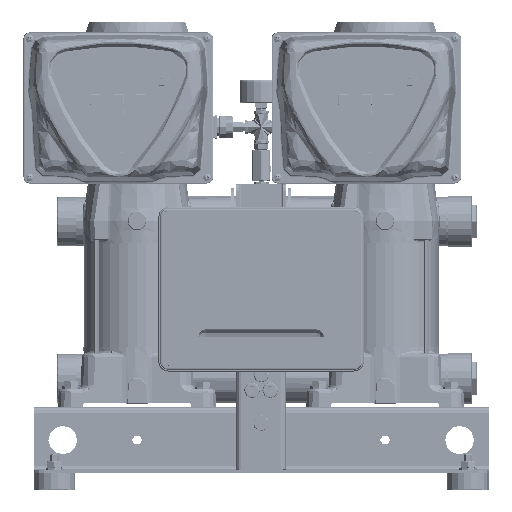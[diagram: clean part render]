
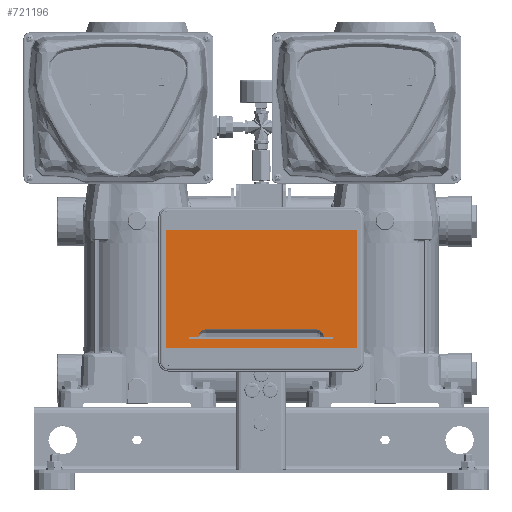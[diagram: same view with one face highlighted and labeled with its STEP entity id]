
A CAD part, top view. The second image highlights one B-rep face of the part: STEP entity #721196.
In plain terms, the highlighted planar face has unit normal (0, 0, 1).
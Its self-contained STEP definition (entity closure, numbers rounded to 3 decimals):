
#717803=DIRECTION('',(1.,0.,0.));
#717804=VECTOR('',#717803,231.);
#717805=CARTESIAN_POINT('',(-115.5,-71.5,112.5));
#717806=LINE('',#717805,#717804);
#717810=DIRECTION('',(0.,-1.,0.));
#717811=VECTOR('',#717810,143.);
#717812=CARTESIAN_POINT('',(-115.5,71.5,112.5));
#717813=LINE('',#717812,#717811);
#717817=DIRECTION('',(-1.,0.,0.));
#717818=VECTOR('',#717817,231.);
#717819=CARTESIAN_POINT('',(115.5,71.5,112.5));
#717820=LINE('',#717819,#717818);
#717824=DIRECTION('',(0.,1.,0.));
#717825=VECTOR('',#717824,143.);
#717826=CARTESIAN_POINT('',(115.5,-71.5,112.5));
#717827=LINE('',#717826,#717825);
#717831=DIRECTION('',(-1.,0.,0.));
#717832=VECTOR('',#717831,10.);
#717833=CARTESIAN_POINT('',(-75.85,-57.2,112.5));
#717834=LINE('',#717833,#717832);
#717838=CARTESIAN_POINT('',(-85.85,-58.85,112.5));
#717839=DIRECTION('',(0.,0.,1.));
#717840=DIRECTION('',(0.,1.,0.));
#717841=AXIS2_PLACEMENT_3D('',#717838,#717839,#717840);
#717846=DIRECTION('',(1.,0.,0.));
#717847=VECTOR('',#717846,171.7);
#717848=CARTESIAN_POINT('',(-85.85,-60.5,112.5));
#717849=LINE('',#717848,#717847);
#717853=CARTESIAN_POINT('',(85.85,-58.85,112.5));
#717854=DIRECTION('',(0.,0.,1.));
#717855=DIRECTION('',(0.,-1.,0.));
#717856=AXIS2_PLACEMENT_3D('',#717853,#717854,#717855);
#717861=DIRECTION('',(-1.,0.,0.));
#717862=VECTOR('',#717861,10.);
#717863=CARTESIAN_POINT('',(85.85,-57.2,112.5));
#717864=LINE('',#717863,#717862);
#717868=CARTESIAN_POINT('',(67.15,-57.2,112.5));
#717869=DIRECTION('',(0.,0.,-1.));
#717870=DIRECTION('',(0.,1.,0.));
#717871=AXIS2_PLACEMENT_3D('',#717868,#717869,#717870);
#717876=DIRECTION('',(1.,0.,0.));
#717877=VECTOR('',#717876,134.3);
#717878=CARTESIAN_POINT('',(-67.15,-48.5,112.5));
#717879=LINE('',#717878,#717877);
#717883=CARTESIAN_POINT('',(-67.15,-57.2,112.5));
#717884=DIRECTION('',(0.,0.,-1.));
#717885=DIRECTION('',(-1.,0.,0.));
#717886=AXIS2_PLACEMENT_3D('',#717883,#717884,#717885);
#718584=CARTESIAN_POINT('',(-115.5,-71.5,112.5));
#718585=CARTESIAN_POINT('',(115.5,-71.5,112.5));
#718586=VERTEX_POINT('',#718584);
#718587=VERTEX_POINT('',#718585);
#718588=CARTESIAN_POINT('',(115.5,71.5,112.5));
#718589=VERTEX_POINT('',#718588);
#718590=CARTESIAN_POINT('',(-115.5,71.5,112.5));
#718591=VERTEX_POINT('',#718590);
#718616=CARTESIAN_POINT('',(-85.85,-60.5,112.5));
#718617=CARTESIAN_POINT('',(85.85,-60.5,112.5));
#718618=VERTEX_POINT('',#718616);
#718619=VERTEX_POINT('',#718617);
#718620=CARTESIAN_POINT('',(85.85,-57.2,112.5));
#718621=VERTEX_POINT('',#718620);
#718622=CARTESIAN_POINT('',(-85.85,-57.2,112.5));
#718623=VERTEX_POINT('',#718622);
#718640=CARTESIAN_POINT('',(-75.85,-57.2,112.5));
#718641=CARTESIAN_POINT('',(-67.15,-48.5,112.5));
#718642=VERTEX_POINT('',#718640);
#718643=VERTEX_POINT('',#718641);
#718644=CARTESIAN_POINT('',(67.15,-48.5,112.5));
#718645=VERTEX_POINT('',#718644);
#718646=CARTESIAN_POINT('',(75.85,-57.2,112.5));
#718647=VERTEX_POINT('',#718646);
#721164=CARTESIAN_POINT('',(0.,0.,112.5));
#721165=DIRECTION('',(0.,0.,1.));
#721166=DIRECTION('',(1.,0.,0.));
#721167=AXIS2_PLACEMENT_3D('',#721164,#721165,#721166);
#721168=PLANE('',#721167);
#721169=ORIENTED_EDGE('',*,*,#721142,.F.);
#721171=ORIENTED_EDGE('',*,*,#721170,.F.);
#721173=ORIENTED_EDGE('',*,*,#721172,.F.);
#721175=ORIENTED_EDGE('',*,*,#721174,.F.);
#721176=EDGE_LOOP('',(#721169,#721171,#721173,#721175));
#721177=FACE_OUTER_BOUND('',#721176,.F.);
#721179=ORIENTED_EDGE('',*,*,#721178,.T.);
#721181=ORIENTED_EDGE('',*,*,#721180,.T.);
#721183=ORIENTED_EDGE('',*,*,#721182,.T.);
#721185=ORIENTED_EDGE('',*,*,#721184,.T.);
#721187=ORIENTED_EDGE('',*,*,#721186,.T.);
#721189=ORIENTED_EDGE('',*,*,#721188,.F.);
#721191=ORIENTED_EDGE('',*,*,#721190,.F.);
#721193=ORIENTED_EDGE('',*,*,#721192,.F.);
#721194=EDGE_LOOP('',(#721179,#721181,#721183,#721185,#721187,#721189,#721191,
#721193));
#721195=FACE_BOUND('',#721194,.F.);
#717842=CIRCLE('',#717841,1.65);
#717857=CIRCLE('',#717856,1.65);
#717872=CIRCLE('',#717871,8.7);
#717887=CIRCLE('',#717886,8.7);
#721142=EDGE_CURVE('',#718586,#718587,#717806,.T.);
#721170=EDGE_CURVE('',#718591,#718586,#717813,.T.);
#721172=EDGE_CURVE('',#718589,#718591,#717820,.T.);
#721174=EDGE_CURVE('',#718587,#718589,#717827,.T.);
#721178=EDGE_CURVE('',#718642,#718623,#717834,.T.);
#721180=EDGE_CURVE('',#718623,#718618,#717842,.T.);
#721182=EDGE_CURVE('',#718618,#718619,#717849,.T.);
#721184=EDGE_CURVE('',#718619,#718621,#717857,.T.);
#721186=EDGE_CURVE('',#718621,#718647,#717864,.T.);
#721188=EDGE_CURVE('',#718645,#718647,#717872,.T.);
#721190=EDGE_CURVE('',#718643,#718645,#717879,.T.);
#721192=EDGE_CURVE('',#718642,#718643,#717887,.T.);
#721196=ADVANCED_FACE('',(#721177,#721195),#721168,.T.);
